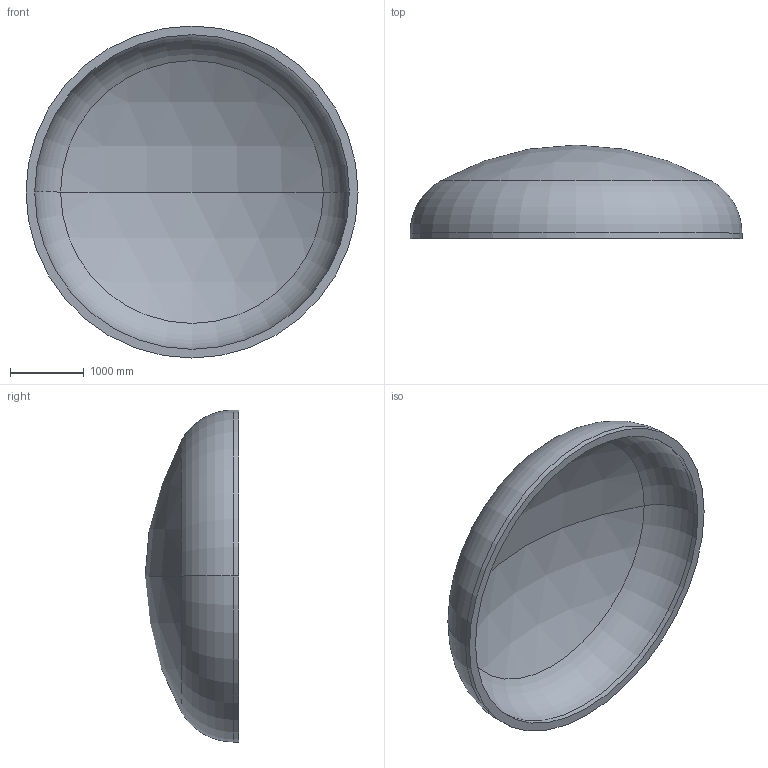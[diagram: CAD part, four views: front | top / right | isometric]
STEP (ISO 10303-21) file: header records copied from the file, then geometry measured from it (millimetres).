
FILE_DESCRIPTION (( 'STEP AP203' ), '1' );
FILE_NAME ('DIN 28013 Korbbogenform_-_Boden DIN 28013 - 4500 x 75 - I - s=118.step', '2016-07-01T23:58:19', ( '' ), ( '' ), 'SwSTEP 2.0', 'SolidWorks 2013', '' );
FILE_SCHEMA (( 'CONFIG_CONTROL_DESIGN' ));
Length unit declared in the file: millimetre
Products named in the file (1): DIN 28013 Korbbogenform_-_Boden DIN 28013 - 4500 x 75 - I - s=118
Bounding box: 4500 x 1268.31 x 4500 mm (x, y, z)
Volume: 2634703670.2 mm3; surface area: 46309583.3 mm2
Topology: 1 solids, 1 shells, 13 faces, 24 edges, 14 vertices
Faces by surface type: torus 4, cylinder 4, sphere 4, plane 1
Entity records: 407 total; most frequent: DIRECTION 72, CARTESIAN_POINT 52, ORIENTED_EDGE 48, AXIS2_PLACEMENT_3D 34, EDGE_CURVE 24, CIRCLE 20, VERTEX_POINT 14, EDGE_LOOP 14
